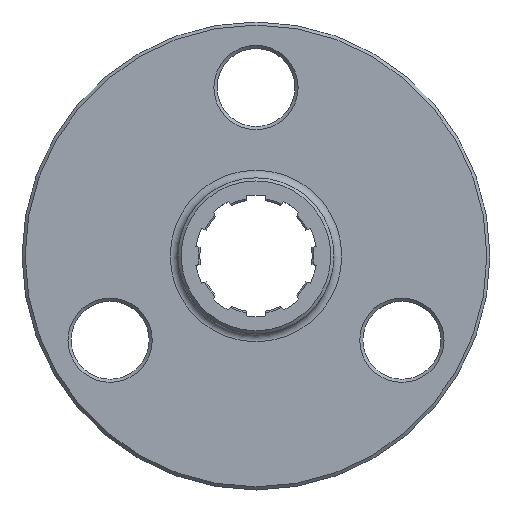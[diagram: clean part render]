
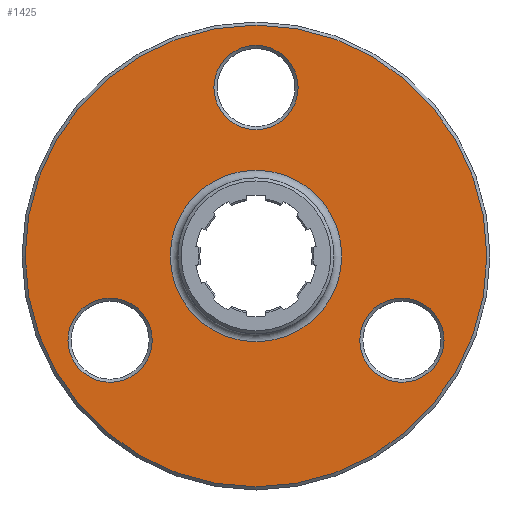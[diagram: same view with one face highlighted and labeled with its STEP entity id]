
A CAD part, top view. The second image highlights one B-rep face of the part: STEP entity #1425.
In plain terms, the highlighted planar face has unit normal (0, 0, 1).
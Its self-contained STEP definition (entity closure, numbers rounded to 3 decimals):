
#46=FACE_BOUND('',#389,.T.);
#47=FACE_BOUND('',#390,.T.);
#48=FACE_BOUND('',#391,.T.);
#49=FACE_BOUND('',#392,.T.);
#259=PLANE('',#1591);
#305=FACE_OUTER_BOUND('',#388,.T.);
#388=EDGE_LOOP('',(#1205));
#389=EDGE_LOOP('',(#1206));
#390=EDGE_LOOP('',(#1207));
#391=EDGE_LOOP('',(#1208));
#392=EDGE_LOOP('',(#1209));
#493=CIRCLE('',#1590,27.);
#494=CIRCLE('',#1592,148.);
#495=CIRCLE('',#1593,27.);
#496=CIRCLE('',#1594,55.);
#497=CIRCLE('',#1595,27.);
#678=VERTEX_POINT('',#2503);
#679=VERTEX_POINT('',#2507);
#680=VERTEX_POINT('',#2509);
#681=VERTEX_POINT('',#2511);
#682=VERTEX_POINT('',#2513);
#882=EDGE_CURVE('',#678,#678,#493,.T.);
#884=EDGE_CURVE('',#679,#679,#494,.T.);
#885=EDGE_CURVE('',#680,#680,#495,.T.);
#886=EDGE_CURVE('',#681,#681,#496,.T.);
#887=EDGE_CURVE('',#682,#682,#497,.T.);
#1205=ORIENTED_EDGE('',*,*,#884,.F.);
#1206=ORIENTED_EDGE('',*,*,#885,.F.);
#1207=ORIENTED_EDGE('',*,*,#886,.F.);
#1208=ORIENTED_EDGE('',*,*,#887,.F.);
#1209=ORIENTED_EDGE('',*,*,#882,.F.);
#1425=ADVANCED_FACE('',(#305,#46,#47,#48,#49),#259,.T.);
#1590=AXIS2_PLACEMENT_3D('',#2504,#1946,#1947);
#1591=AXIS2_PLACEMENT_3D('',#2506,#1949,#1950);
#1592=AXIS2_PLACEMENT_3D('',#2508,#1951,#1952);
#1593=AXIS2_PLACEMENT_3D('',#2510,#1953,#1954);
#1594=AXIS2_PLACEMENT_3D('',#2512,#1955,#1956);
#1595=AXIS2_PLACEMENT_3D('',#2514,#1957,#1958);
#1946=DIRECTION('center_axis',(0.,0.,1.));
#1947=DIRECTION('ref_axis',(-1.,0.,0.));
#1949=DIRECTION('center_axis',(0.,0.,1.));
#1950=DIRECTION('ref_axis',(1.,0.,0.));
#1951=DIRECTION('center_axis',(0.,0.,-1.));
#1952=DIRECTION('ref_axis',(-1.,0.,0.));
#1953=DIRECTION('center_axis',(0.,0.,1.));
#1954=DIRECTION('ref_axis',(-1.,0.,0.));
#1955=DIRECTION('center_axis',(0.,0.,1.));
#1956=DIRECTION('ref_axis',(-1.,0.,0.));
#1957=DIRECTION('center_axis',(0.,0.,1.));
#1958=DIRECTION('ref_axis',(-1.,0.,0.));
#2503=CARTESIAN_POINT('',(120.531,-54.,20.));
#2504=CARTESIAN_POINT('Origin',(93.531,-54.,20.));
#2506=CARTESIAN_POINT('Origin',(0.,0.,20.));
#2507=CARTESIAN_POINT('',(148.,0.,20.));
#2508=CARTESIAN_POINT('Origin',(0.,0.,20.));
#2509=CARTESIAN_POINT('',(-66.531,-54.,20.));
#2510=CARTESIAN_POINT('Origin',(-93.531,-54.,20.));
#2511=CARTESIAN_POINT('',(55.,0.,20.));
#2512=CARTESIAN_POINT('Origin',(0.,0.,20.));
#2513=CARTESIAN_POINT('',(27.,108.,20.));
#2514=CARTESIAN_POINT('Origin',(0.,108.,20.));
